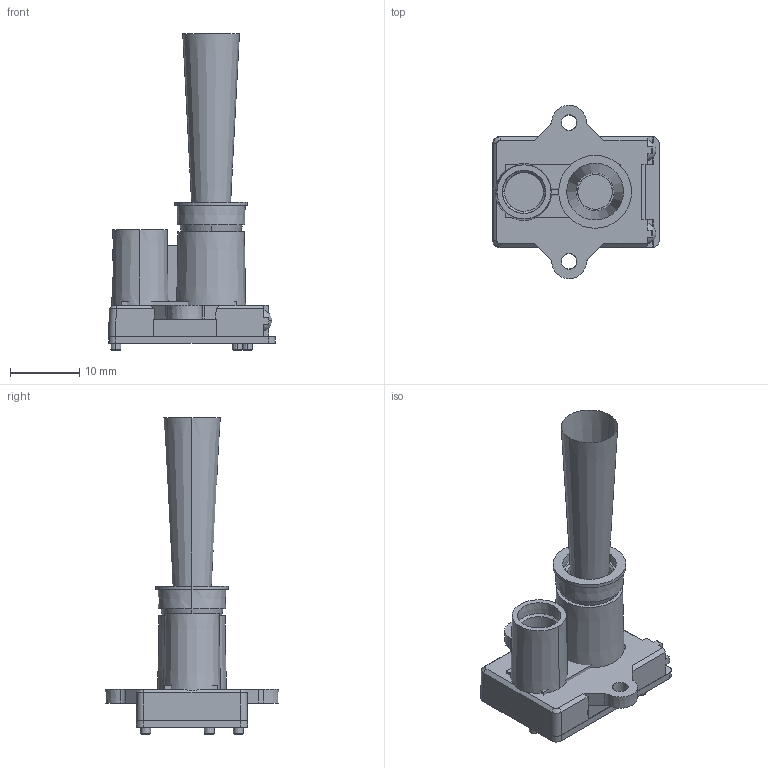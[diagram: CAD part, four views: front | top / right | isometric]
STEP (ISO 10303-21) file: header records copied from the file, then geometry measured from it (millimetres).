
FILE_DESCRIPTION (( 'STEP AP214' ), '1' );
FILE_NAME ('TF-UW500湍嫖繚.STEP', '2026-02-03T10:06:45', ( '' ), ( '' ), 'SwSTEP 2.0', 'SolidWorks 2025', '' );
FILE_SCHEMA (( 'AUTOMOTIVE_DESIGN' ));
Length unit declared in the file: millimetre
Products named in the file (12): _072400_ASM; _X2_63A56536955C7247_X0__ZOS_ASM; 000-0; TF-UW500带光路; _0001; RAYS_1; _X2_53D15C04_X0_-_X2_975E5E8F52_ASM; _0002; PCB-4; 0001_ASM; OBJECT_2; TF-UW500带光路(2)
Assembly tree (11 placements, depth 5):
  TF-UW500带光路
    TF-UW500带光路(2)
      _072400_ASM
        _X2_53D15C04_X0_-_X2_975E5E8F52_ASM
          OBJECT_2
      0001_ASM
        _X2_63A56536955C7247_X0__ZOS_ASM
          RAYS_1
      _0001
      PCB-4
      000-0
      _0002
Bounding box: 24 x 24.98 x 45.64 mm (x, y, z)
Volume: 3894 mm3; surface area: 4281 mm2
Topology: 5 solids, 6 shells, 211 faces, 530 edges, 340 vertices
Faces by surface type: plane 109, cone 54, cylinder 36, bspline 8, sphere 4
Entity records: 7082 total; most frequent: CARTESIAN_POINT 1641, DIRECTION 1119, ORIENTED_EDGE 1044, EDGE_CURVE 524, AXIS2_PLACEMENT_3D 416, VERTEX_POINT 338, LINE 287, VECTOR 287
